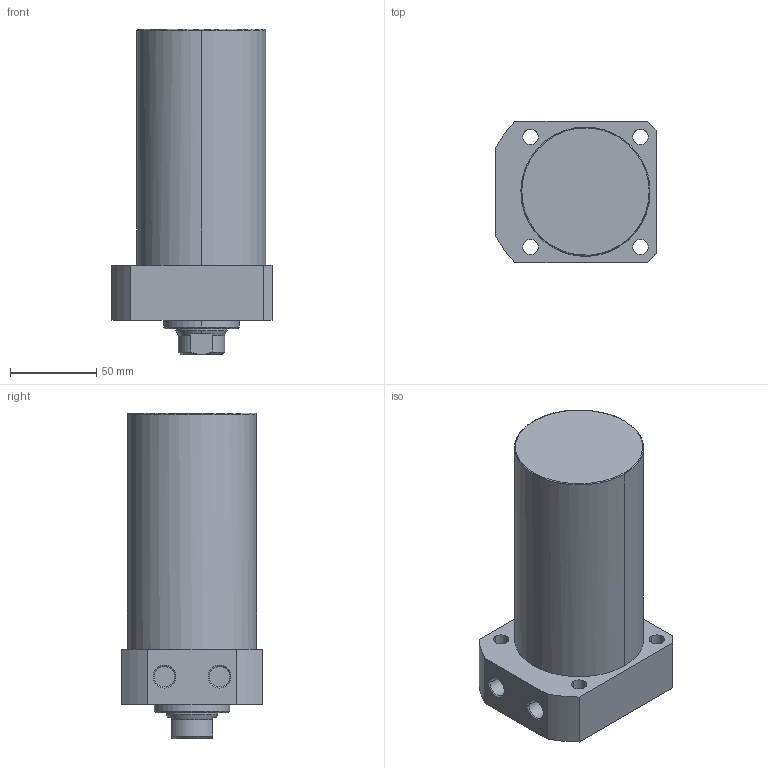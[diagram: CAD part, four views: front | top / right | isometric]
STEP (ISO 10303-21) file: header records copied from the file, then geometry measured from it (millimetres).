
FILE_DESCRIPTION((' '),'2;1');
FILE_NAME( 'TLLR-075CA-100.STEP.stp', '2025-10-24T16:35:06', (' '), ('--- Datakit www.datakit.com---'), ' Datakit CrossCadWare V2024.1 Dec 21 2023', 'Mastercam 2025', ' ');
FILE_SCHEMA(('AUTOMOTIVE_DESIGN { 1 0 10303 214 1 1 1 1 }'));
Length unit declared in the file: millimetre
Products named in the file (1): TLLR-075CA-100
Bounding box: 93 x 82 x 189 mm (x, y, z)
Volume: 840347.7 mm3; surface area: 65941.1 mm2
Topology: 1 solids, 1 shells, 63 faces, 177 edges, 122 vertices
Faces by surface type: cylinder 28, plane 19, cone 14, torus 2
Entity records: 2168 total; most frequent: CARTESIAN_POINT 405, DIRECTION 400, ORIENTED_EDGE 350, EDGE_CURVE 175, AXIS2_PLACEMENT_3D 169, VERTEX_POINT 122, CIRCLE 105, EDGE_LOOP 79
